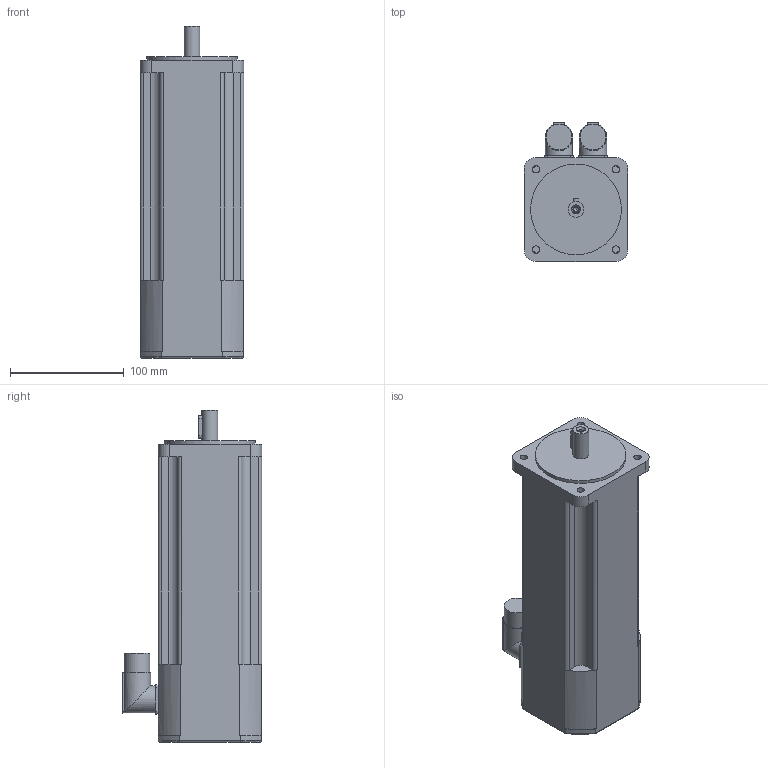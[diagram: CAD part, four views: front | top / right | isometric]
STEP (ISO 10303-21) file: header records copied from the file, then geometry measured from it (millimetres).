
FILE_DESCRIPTION(/* description */ (''),/* implementation_level */ '2;1');
FILE_NAME(/* name */ '\\Lafnas01\disegni\Archivi Lafert\3D\CAD 3D\MODELLI\Assiemi clienti\Serad\Modelli 3D Serad\B56I\Encoder\Enc With Brake\B5602Ixx6BRx2033.ipt.stp',/* time_stamp */ '2015-09-07T10:49:38+02:00',/* author */ ('Pastrello Ylenia'),/* organization */ (''),/* preprocessor_version */ 'ST-DEVELOPER v15.6',/* originating_system */ 'Autodesk Inventor 2015',/* authorisation */ '');
FILE_SCHEMA (('AUTOMOTIVE_DESIGN { 1 0 10303 214 3 1 1 }'));
Length unit declared in the file: millimetre
Products named in the file (1): B5602Ixx6BRx2033
Bounding box: 91.3 x 122.8 x 292.5 mm (x, y, z)
Volume: 1999539.1 mm3; surface area: 118060.6 mm2
Topology: 1 solids, 1 shells, 133 faces, 339 edges, 215 vertices
Faces by surface type: plane 74, cylinder 52, torus 4, cone 3
Full cylindrical faces by diameter (mm): 4.134 x1, 5.3 x1, 6.5 x4, 14 x1, 22.7 x2, 24 x2, 80 x1
Entity records: 4088 total; most frequent: CARTESIAN_POINT 804, DIRECTION 726, ORIENTED_EDGE 640, EDGE_CURVE 320, AXIS2_PLACEMENT_3D 282, VERTEX_POINT 212, EDGE_LOOP 164, LINE 162
